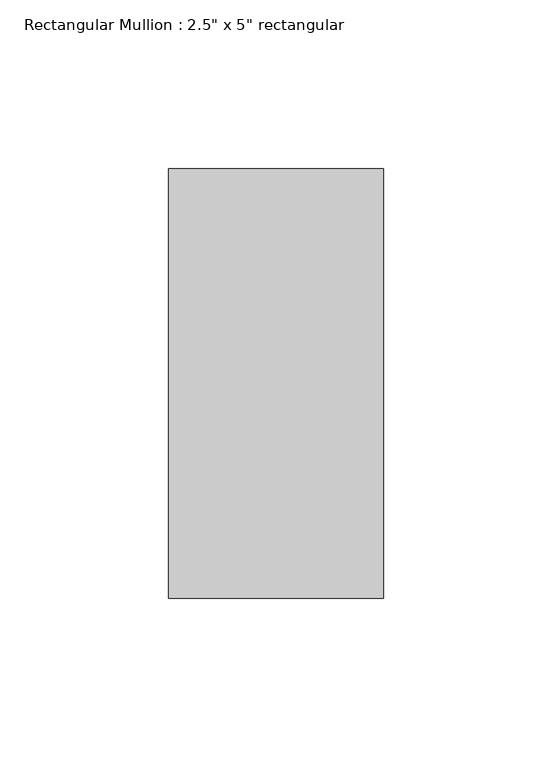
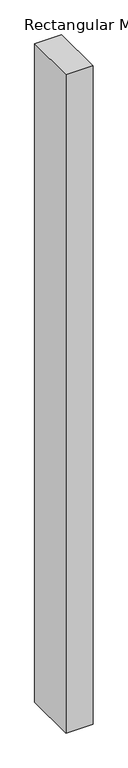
"""IFC4 building model written with IfcOpenShell, lengths in millimetres: member geometry."""

from ifc_helpers import new_model, si_unit, frame, origin, place, context, project, spatial, polyline, outline, extrude, source, transform, mapped, element, save


def member_249e519d(model_context):
    return source(origin(), model_context, "Body", "SweptSolid", [
        extrude(outline(polyline([(0.0, 63.5), (0.0, -63.5), (-63.5, -63.5), (-63.5, 63.5), (0.0, 63.5)])), frame((0.0, 0.0, -1631.95), z_axis=(0.0, 0.0, 1.0), x_axis=(1.0, 0.0, 0.0)), (0.0, 0.0, 1.0), 1631.95),
    ])


if __name__ == "__main__":
    model = new_model("IFC4")
    model_context = context("Model", 3, world=origin())
    ifc_project = project(units=[si_unit("LENGTHUNIT", "METRE", prefix="MILLI")], contexts=[model_context])
    site = spatial("IfcSite", under=ifc_project)
    building = spatial("IfcBuilding", under=site)
    placement = place(None, origin())
    member_shape = member_249e519d(model_context)
    element("IfcMember", 1, ObjectType="Rectangular Mullion : 2.5\" x 5\" rectangular", at=placement, inside=building, context=model_context, shape_type="MappedRepresentation", body=[
        mapped(member_shape, transform((0.0, 0.0, 0.0), x_axis=(1.0, 0.0, 0.0), y_axis=(0.0, 1.0, 0.0), z_axis=(0.0, 0.0, 1.0))),
    ])
    save(model, "model.ifc")
